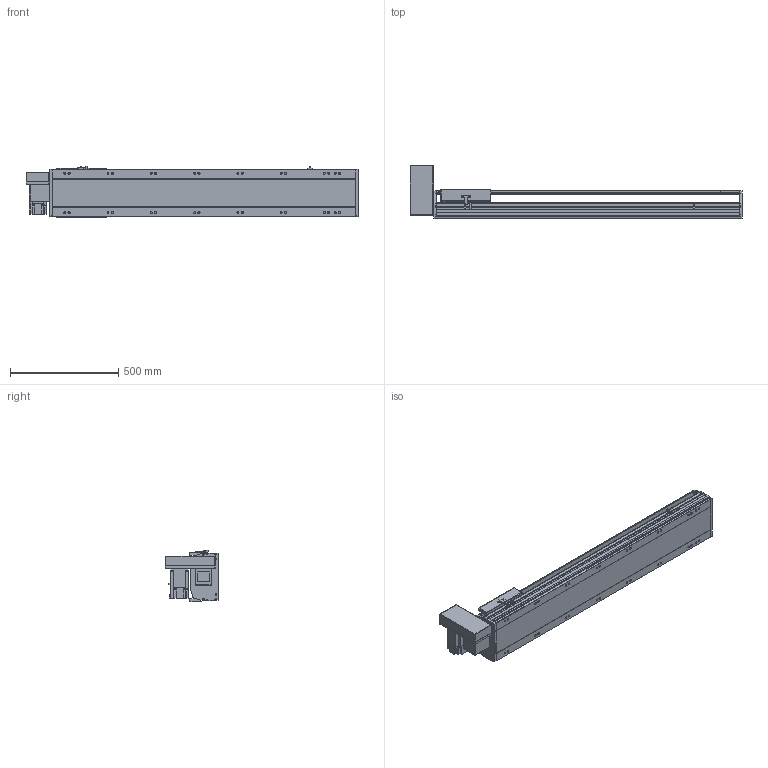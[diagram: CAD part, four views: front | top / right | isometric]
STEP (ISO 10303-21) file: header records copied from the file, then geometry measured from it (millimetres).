
FILE_DESCRIPTION(/* description */ ('STEP AP214'),/* implementation_level */ '2;1');
FILE_NAME(/* name */ 'PBS220-P40-S1050-RU-T75-C1-N(0)',/* time_stamp */ '2022-06-13T02:54:09+02:00',/* author */ ('License CC BY-ND 4.0'),/* organization */ ('CADENAS'),/* preprocessor_version */ 'ST-DEVELOPER v18.102',/* originating_system */ 'PARTsolutions',/* authorisation */ ' ');
FILE_SCHEMA (('AUTOMOTIVE_DESIGN {1 0 10303 214 3 1 1}'));
Length unit declared in the file: millimetre
Products named in the file (7): PBS220-P40-S1050-RU-T75-C1-N(0); PBS220_sensor; PBS220_plant; PBS220_sliser; T75-p1; PBS220T-RU_motors; PBS220-S1050()_body
Assembly tree (8 placements, depth 2):
  PBS220-P40-S1050-RU-T75-C1-N(0)
    PBS220_sensor  x3
    PBS220_plant
    PBS220_sliser
    T75-p1
    PBS220T-RU_motors
    PBS220-S1050()_body
Bounding box: 1534 x 247 x 238.5 mm (x, y, z)
Volume: 22125657.5 mm3; surface area: 2159215.1 mm2
Topology: 8 solids, 8 shells, 914 faces, 2396 edges, 1558 vertices
Faces by surface type: plane 598, cylinder 276, cone 40
Full cylindrical faces by diameter (mm): 2.013 x4, 4.5 x14, 4.917 x4, 6 x7, 6.647 x8, 8 x10, 8.376 x16, 8.5 x16, 10 x6, 14 x16, 38 x2, 40 x1, 70 x1
Entity records: 25629 total; most frequent: CARTESIAN_POINT 4492, DIRECTION 4455, ORIENTED_EDGE 4106, EDGE_CURVE 2053, AXIS2_PLACEMENT_3D 1555, VERTEX_POINT 1416, LINE 1345, VECTOR 1345
